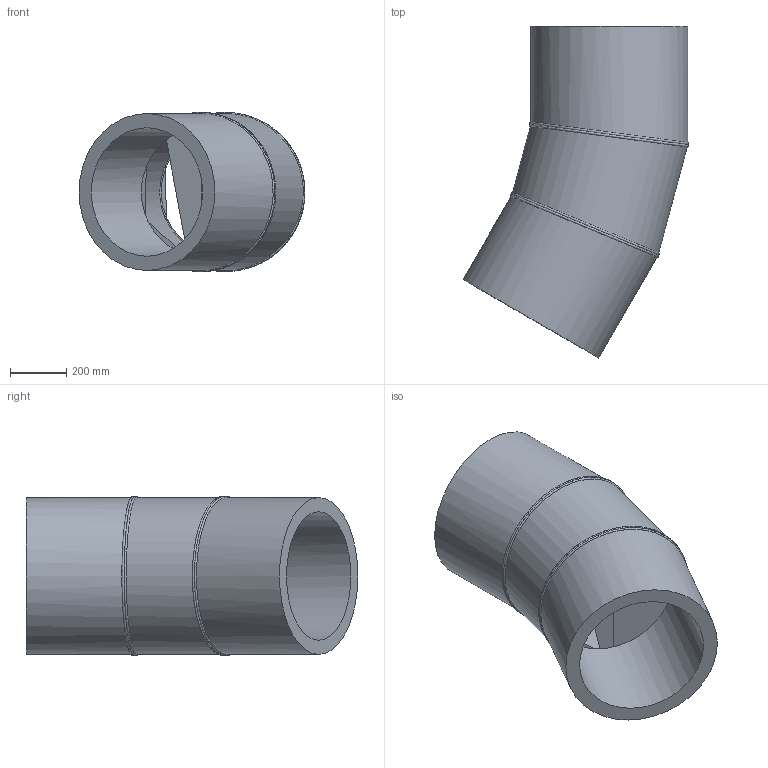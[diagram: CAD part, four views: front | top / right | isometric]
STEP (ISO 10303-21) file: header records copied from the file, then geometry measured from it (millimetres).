
FILE_DESCRIPTION(/* description */ ('Unknown'),/* implementation_level */ '2;1');
FILE_NAME(/* name */ 'Curva 30° a settore DE560 SDR11',/* time_stamp */ '2022-07-26T08:56:24+02:00',/* author */ ('Unknown'),/* organization */ ('Unknown'),/* preprocessor_version */ 'ST-DEVELOPER v18.102',/* originating_system */ 'Solid Edge',/* authorisation */ 'Unknown');
FILE_SCHEMA (('AUTOMOTIVE_DESIGN {1 0 10303 214 3 1 1}'));
Length unit declared in the file: millimetre
Products named in the file (3): Curva 30° a settore DE560 SDR11; Tubo x Gomito 30° DE560 SDR11 - 1; Tubo x Gomito 30° DE560 SDR11 - 2
Assembly tree (3 placements, depth 2):
  Curva 30° a settore DE560 SDR11
    Tubo x Gomito 30° DE560 SDR11 - 1  x2
    Tubo x Gomito 30° DE560 SDR11 - 2
Bounding box: 806.28 x 1184.25 x 567.99 mm (x, y, z)
Volume: 87549648.5 mm3; surface area: 4062101.2 mm2
Topology: 3 solids, 3 shells, 24 faces, 51 edges, 33 vertices
Faces by surface type: cylinder 14, plane 6, bspline 4
Full cylindrical faces by diameter (mm): 458.4 x2, 469.2 x1, 560 x3
Entity records: 3468 total; most frequent: CARTESIAN_POINT 3073, DIRECTION 70, ORIENTED_EDGE 52, AXIS2_PLACEMENT_3D 35, EDGE_LOOP 28, FACE_BOUND 28, EDGE_CURVE 26, VERTEX_POINT 20
